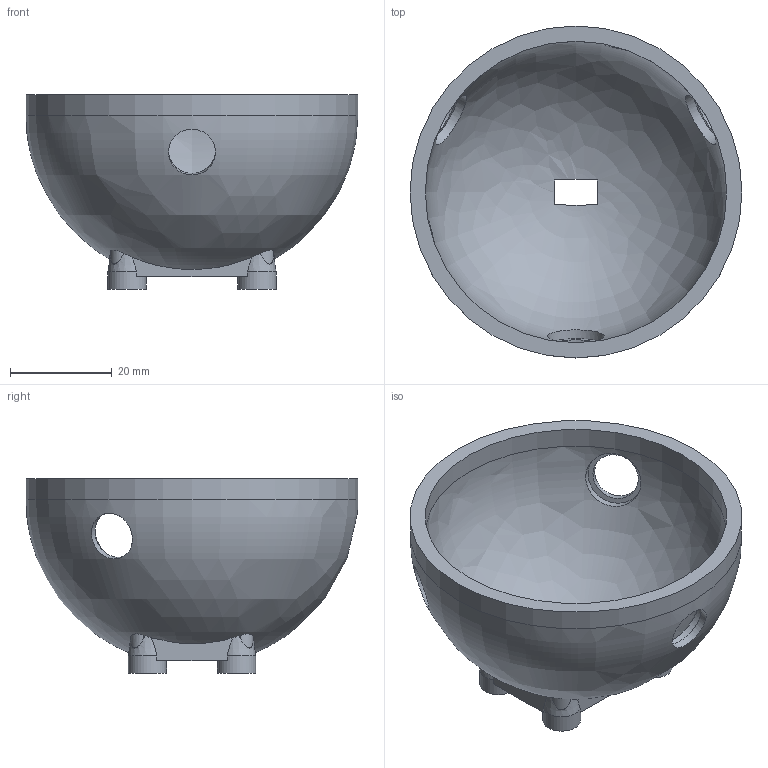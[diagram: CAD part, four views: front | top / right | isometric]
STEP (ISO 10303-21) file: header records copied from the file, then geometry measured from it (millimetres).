
FILE_DESCRIPTION(('Open CASCADE Model'),'2;1');
FILE_NAME('Open CASCADE Shape Model','2026-05-31T19:43:50',('Author'),( 'Open CASCADE'),'Open CASCADE STEP processor 7.6','Open CASCADE 7.6' ,'Unknown');
FILE_SCHEMA(('AP242_MANAGED_MODEL_BASED_3D_ENGINEERING_MIM_LF. {1 0 10303 442 1 1 4 }'));
Length unit declared in the file: millimetre
Products named in the file (1): Open CASCADE STEP translator 7.6 24
Bounding box: 65.15 x 65.15 x 38.17 mm (x, y, z)
Volume: 20763.6 mm3; surface area: 15047.7 mm2
Topology: 1 solids, 1 shells, 64 faces, 160 edges, 106 vertices
Faces by surface type: plane 30, cylinder 24, bspline 4, cone 4, revolution 2
Full cylindrical faces by diameter (mm): 3.5 x4, 7.5 x4, 9.2 x3, 11.2 x3, 59.15 x1, 65.15 x1
Entity records: 8864 total; most frequent: CARTESIAN_POINT 5815, DIRECTION 508, ORIENTED_EDGE 320, PCURVE 320, DEFINITIONAL_REPRESENTATION 320, LINE 230, VECTOR 230, EDGE_CURVE 160
